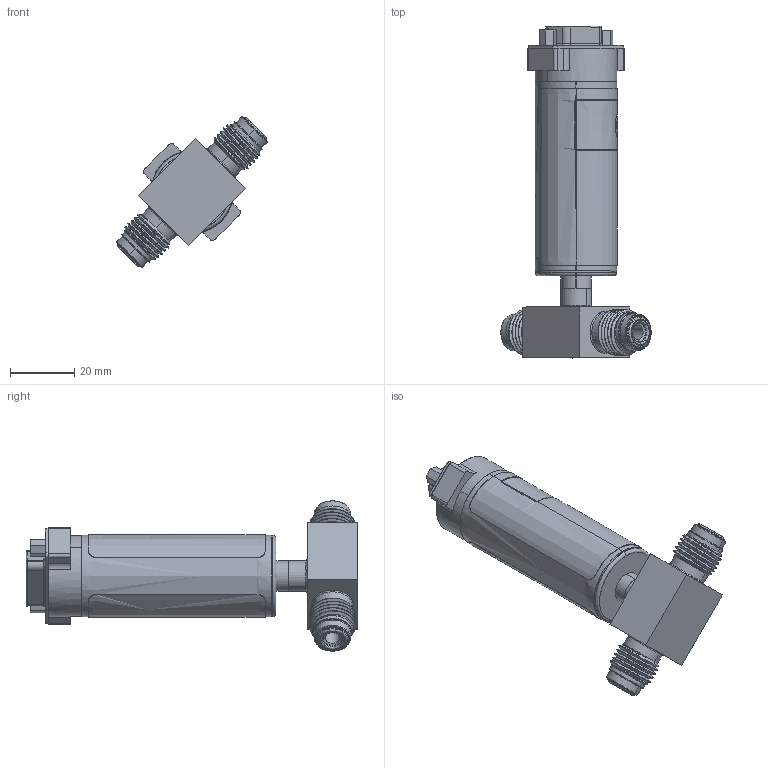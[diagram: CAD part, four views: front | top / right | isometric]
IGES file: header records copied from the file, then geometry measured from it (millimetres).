
Start section: SolidWorks IGES file using analytic representation for surfaces
Global section: file name: R:\Brooks Instrument\25-0024 SSII CAD File Generation\Client Files\SSII CAD Models for Website\CAD for Brooks Website\Example\GSF\GSF-XXXXXX-D-XXX-VM\IGES\GSF-XXXXXX-D-XXX-VM.IGS; native system: SolidWorks 2023; preprocessor: SolidWorks 2023; author: dgoddard; date: 250618.142922; units: inch
Bounding box: 46.82 x 103.49 x 46.82 mm (x, y, z)
Surface area: 19933.3 mm2 (no closed solid volume)
Topology: 0 solids, 0 shells, 449 faces, 5341 edges, 5277 vertices
Faces by surface type: revolution 245, bspline 204
